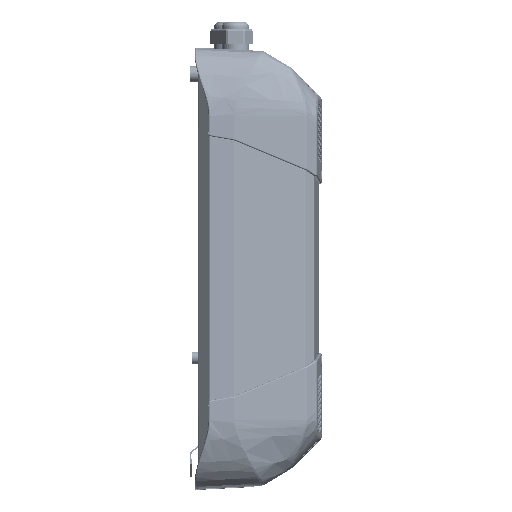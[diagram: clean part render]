
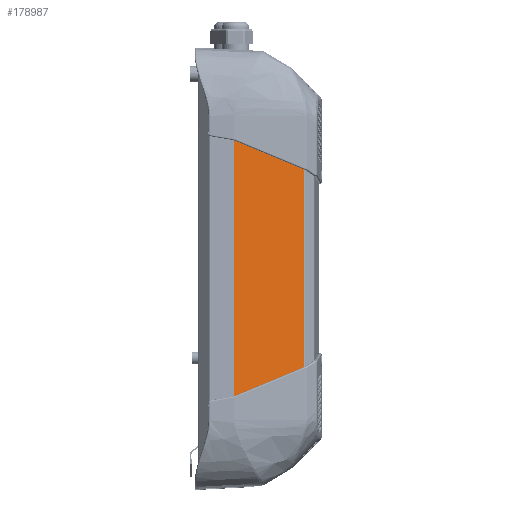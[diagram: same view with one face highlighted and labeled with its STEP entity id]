
A CAD part, front view. The second image highlights one B-rep face of the part: STEP entity #178987.
In plain terms, the highlighted planar face has unit normal (0.208, -0.978, 0).
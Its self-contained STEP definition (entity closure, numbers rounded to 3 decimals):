
#4140=B_SPLINE_CURVE_WITH_KNOTS('',3,(#239728,#239729,#239730,#239731,#239732),
 .UNSPECIFIED.,.F.,.U.,(4,1,4),(0.,0.5,1.),.UNSPECIFIED.);
#4141=B_SPLINE_CURVE_WITH_KNOTS('',3,(#239736,#239737,#239738,#239739),
 .UNSPECIFIED.,.F.,.U.,(4,4),(0.,1.),.UNSPECIFIED.);
#4142=B_SPLINE_CURVE_WITH_KNOTS('',3,(#239746,#239747,#239748,#239749),
 .UNSPECIFIED.,.F.,.U.,(4,4),(0.,1.),.UNSPECIFIED.);
#4143=B_SPLINE_CURVE_WITH_KNOTS('',3,(#239753,#239754,#239755,#239756,#239757),
 .UNSPECIFIED.,.F.,.U.,(4,1,4),(0.,0.5,1.),.UNSPECIFIED.);
#14920=VECTOR('',#203691,1.);
#14968=VECTOR('',#203795,1.);
#14969=VECTOR('',#203797,1.);
#14970=VECTOR('',#203798,1.);
#14971=VECTOR('',#203799,1.);
#14972=VECTOR('',#203800,1.);
#14973=VECTOR('',#203801,1.);
#14974=VECTOR('',#203802,1.);
#14975=VECTOR('',#203803,1.);
#14976=VECTOR('',#203804,1.);
#14977=VECTOR('',#203805,1.);
#14978=VECTOR('',#203806,1.);
#14979=VECTOR('',#203807,1.);
#14980=VECTOR('',#203808,1.);
#29828=LINE('',#239539,#14920);
#29876=LINE('',#239719,#14968);
#29877=LINE('',#239721,#14969);
#29878=LINE('',#239724,#14970);
#29879=LINE('',#239726,#14971);
#29880=LINE('',#239734,#14972);
#29881=LINE('',#239741,#14973);
#29882=LINE('',#239743,#14974);
#29883=LINE('',#239744,#14975);
#29884=LINE('',#239751,#14976);
#29885=LINE('',#239759,#14977);
#29886=LINE('',#239761,#14978);
#29887=LINE('',#239763,#14979);
#29888=LINE('',#239765,#14980);
#44205=PLANE('',#190541);
#49013=VERTEX_POINT('',#239538);
#49014=VERTEX_POINT('',#239540);
#49048=VERTEX_POINT('',#239718);
#49049=VERTEX_POINT('',#239722);
#49050=VERTEX_POINT('',#239723);
#49051=VERTEX_POINT('',#239725);
#49052=VERTEX_POINT('',#239727);
#49053=VERTEX_POINT('',#239733);
#49054=VERTEX_POINT('',#239735);
#49055=VERTEX_POINT('',#239740);
#49056=VERTEX_POINT('',#239742);
#49057=VERTEX_POINT('',#239745);
#49058=VERTEX_POINT('',#239750);
#49059=VERTEX_POINT('',#239752);
#49060=VERTEX_POINT('',#239758);
#49061=VERTEX_POINT('',#239760);
#49062=VERTEX_POINT('',#239762);
#49063=VERTEX_POINT('',#239764);
#70078=EDGE_CURVE('',#49014,#49013,#29828,.T.);
#70141=EDGE_CURVE('',#49013,#49048,#29876,.T.);
#70142=EDGE_CURVE('',#49049,#49050,#29877,.T.);
#70143=EDGE_CURVE('',#49051,#49050,#29878,.T.);
#70144=EDGE_CURVE('',#49052,#49051,#29879,.T.);
#70145=EDGE_CURVE('',#49052,#49053,#4140,.T.);
#70146=EDGE_CURVE('',#49053,#49054,#29880,.T.);
#70147=EDGE_CURVE('',#49054,#49055,#4141,.T.);
#70148=EDGE_CURVE('',#49055,#49056,#29881,.T.);
#70149=EDGE_CURVE('',#49014,#49056,#29882,.T.);
#70150=EDGE_CURVE('',#49057,#49048,#29883,.T.);
#70151=EDGE_CURVE('',#49058,#49057,#4142,.T.);
#70152=EDGE_CURVE('',#49059,#49058,#29884,.T.);
#70153=EDGE_CURVE('',#49060,#49059,#4143,.T.);
#70154=EDGE_CURVE('',#49060,#49061,#29885,.T.);
#70155=EDGE_CURVE('',#49061,#49062,#29886,.T.);
#70156=EDGE_CURVE('',#49063,#49062,#29887,.T.);
#70157=EDGE_CURVE('',#49063,#49049,#29888,.T.);
#99856=ORIENTED_EDGE('',*,*,#70142,.T.);
#99857=ORIENTED_EDGE('',*,*,#70143,.F.);
#99858=ORIENTED_EDGE('',*,*,#70144,.F.);
#99859=ORIENTED_EDGE('',*,*,#70145,.T.);
#99860=ORIENTED_EDGE('',*,*,#70146,.T.);
#99861=ORIENTED_EDGE('',*,*,#70147,.T.);
#99862=ORIENTED_EDGE('',*,*,#70148,.T.);
#99863=ORIENTED_EDGE('',*,*,#70149,.F.);
#99864=ORIENTED_EDGE('',*,*,#70078,.T.);
#99865=ORIENTED_EDGE('',*,*,#70141,.T.);
#99866=ORIENTED_EDGE('',*,*,#70150,.F.);
#99867=ORIENTED_EDGE('',*,*,#70151,.F.);
#99868=ORIENTED_EDGE('',*,*,#70152,.F.);
#99869=ORIENTED_EDGE('',*,*,#70153,.F.);
#99870=ORIENTED_EDGE('',*,*,#70154,.T.);
#99871=ORIENTED_EDGE('',*,*,#70155,.T.);
#99872=ORIENTED_EDGE('',*,*,#70156,.F.);
#99873=ORIENTED_EDGE('',*,*,#70157,.T.);
#155345=EDGE_LOOP('',(#99856,#99857,#99858,#99859,#99860,#99861,#99862,#99863,
#99864,#99865,#99866,#99867,#99868,#99869,#99870,#99871,#99872,#99873));
#167240=FACE_BOUND('',#155345,.T.);
#178987=ADVANCED_FACE('',(#167240),#44205,.T.);
#190541=AXIS2_PLACEMENT_3D('',#239720,#203796,$);
#203691=DIRECTION('',(0.,0.,-1.));
#203795=DIRECTION('',(0.978,0.208,0.));
#203796=DIRECTION('',(0.208,-0.978,0.));
#203797=DIRECTION('',(-0.851,-0.181,0.492));
#203798=DIRECTION('',(0.978,0.208,0.));
#203799=DIRECTION('',(0.,0.,-1.));
#203800=DIRECTION('',(-0.978,-0.208,0.));
#203801=DIRECTION('',(-0.851,-0.181,0.492));
#203802=DIRECTION('',(0.978,0.208,0.));
#203803=DIRECTION('',(-0.851,-0.181,-0.492));
#203804=DIRECTION('',(-0.978,-0.208,0.));
#203805=DIRECTION('',(0.,0.,1.));
#203806=DIRECTION('',(0.978,0.208,0.));
#203807=DIRECTION('',(-0.851,-0.181,-0.492));
#203808=DIRECTION('',(0.,0.,1.));
#239538=CARTESIAN_POINT('',(40.179,-155.589,-139.2));
#239539=CARTESIAN_POINT('',(40.179,-155.589,139.2));
#239540=CARTESIAN_POINT('',(40.179,-155.589,139.2));
#239718=CARTESIAN_POINT('',(57.547,-151.897,-139.2));
#239719=CARTESIAN_POINT('',(40.179,-155.589,-139.2));
#239720=CARTESIAN_POINT('',(40.,-155.627,0.));
#239721=CARTESIAN_POINT('',(112.65,-140.185,107.34));
#239722=CARTESIAN_POINT('',(112.65,-140.185,107.34));
#239723=CARTESIAN_POINT('',(90.754,-144.839,120.));
#239724=CARTESIAN_POINT('',(84.,-146.274,120.));
#239725=CARTESIAN_POINT('',(84.,-146.274,120.));
#239726=CARTESIAN_POINT('',(84.,-146.274,126.905));
#239727=CARTESIAN_POINT('',(84.,-146.274,126.905));
#239728=CARTESIAN_POINT('',(84.,-146.274,126.905));
#239729=CARTESIAN_POINT('',(84.,-146.274,127.242));
#239730=CARTESIAN_POINT('',(83.745,-146.329,127.655));
#239731=CARTESIAN_POINT('',(83.33,-146.417,127.905));
#239732=CARTESIAN_POINT('',(83.,-146.487,127.905));
#239733=CARTESIAN_POINT('',(83.,-146.487,127.905));
#239734=CARTESIAN_POINT('',(83.,-146.487,127.905));
#239735=CARTESIAN_POINT('',(78.155,-147.517,127.905));
#239736=CARTESIAN_POINT('',(78.155,-147.517,127.905));
#239737=CARTESIAN_POINT('',(77.442,-147.668,127.905));
#239738=CARTESIAN_POINT('',(76.774,-147.81,128.083));
#239739=CARTESIAN_POINT('',(76.153,-147.942,128.442));
#239740=CARTESIAN_POINT('',(76.153,-147.942,128.442));
#239741=CARTESIAN_POINT('',(76.153,-147.942,128.442));
#239742=CARTESIAN_POINT('',(57.547,-151.897,139.2));
#239743=CARTESIAN_POINT('',(40.179,-155.589,139.2));
#239744=CARTESIAN_POINT('',(76.153,-147.942,-128.442));
#239745=CARTESIAN_POINT('',(76.153,-147.942,-128.442));
#239746=CARTESIAN_POINT('',(78.155,-147.517,-127.905));
#239747=CARTESIAN_POINT('',(77.442,-147.668,-127.905));
#239748=CARTESIAN_POINT('',(76.774,-147.81,-128.083));
#239749=CARTESIAN_POINT('',(76.153,-147.942,-128.442));
#239750=CARTESIAN_POINT('',(78.155,-147.517,-127.905));
#239751=CARTESIAN_POINT('',(83.,-146.487,-127.905));
#239752=CARTESIAN_POINT('',(83.,-146.487,-127.905));
#239753=CARTESIAN_POINT('',(84.,-146.274,-126.905));
#239754=CARTESIAN_POINT('',(84.,-146.274,-127.242));
#239755=CARTESIAN_POINT('',(83.745,-146.329,-127.655));
#239756=CARTESIAN_POINT('',(83.33,-146.417,-127.905));
#239757=CARTESIAN_POINT('',(83.,-146.487,-127.905));
#239758=CARTESIAN_POINT('',(84.,-146.274,-126.905));
#239759=CARTESIAN_POINT('',(84.,-146.274,-126.905));
#239760=CARTESIAN_POINT('',(84.,-146.274,-120.));
#239761=CARTESIAN_POINT('',(84.,-146.274,-120.));
#239762=CARTESIAN_POINT('',(90.754,-144.839,-120.));
#239763=CARTESIAN_POINT('',(112.65,-140.185,-107.34));
#239764=CARTESIAN_POINT('',(112.65,-140.185,-107.34));
#239765=CARTESIAN_POINT('',(112.65,-140.185,-107.34));
